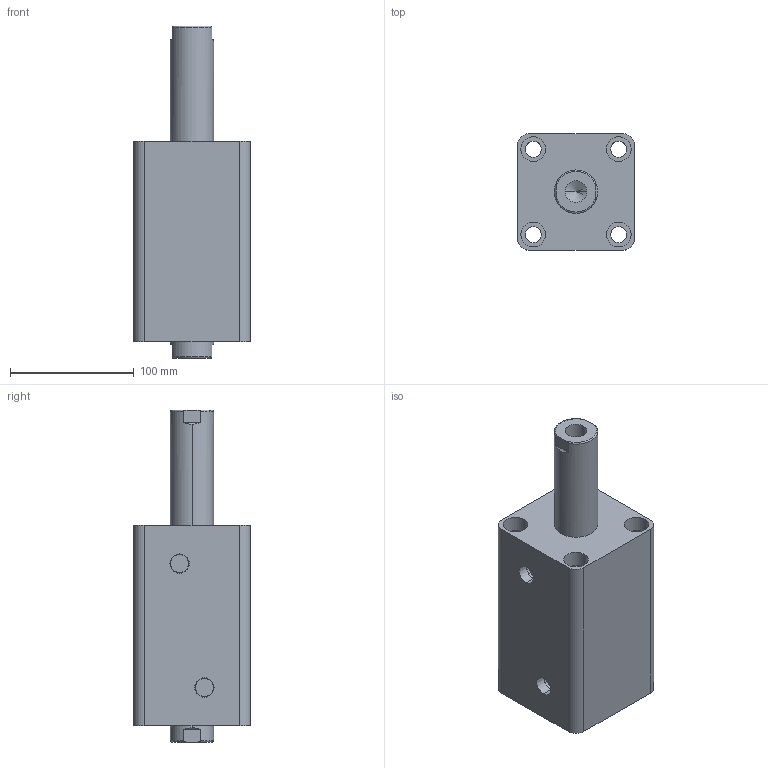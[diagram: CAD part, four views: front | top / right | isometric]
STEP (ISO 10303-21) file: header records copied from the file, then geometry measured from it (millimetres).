
FILE_DESCRIPTION (( 'STEP AP203' ), '1' );
FILE_NAME ('HTB-SW63-80N.STEP', '2019-10-07T10:08:01', ( '微软用户' ), ( '微软中国' ), 'SwSTEP 2.0', 'SolidWorks 2012', '' );
FILE_SCHEMA (( 'CONFIG_CONTROL_DESIGN' ));
Length unit declared in the file: millimetre
Products named in the file (3): HTB-SW63-80掛极; HTB-SW63-80N; HTB-SW63-80N活塞杆
Assembly tree (2 placements, depth 2):
  HTB-SW63-80N
    HTB-SW63-80掛极
    HTB-SW63-80N活塞杆
Bounding box: 94 x 94 x 268 mm (x, y, z)
Volume: 1230056 mm3; surface area: 172936.3 mm2
Topology: 2 solids, 2 shells, 100 faces, 228 edges, 146 vertices
Faces by surface type: cylinder 48, plane 32, torus 12, cone 8
Entity records: 3253 total; most frequent: CARTESIAN_POINT 611, DIRECTION 542, ORIENTED_EDGE 448, AXIS2_PLACEMENT_3D 229, EDGE_CURVE 224, VERTEX_POINT 146, EDGE_LOOP 128, CIRCLE 124
